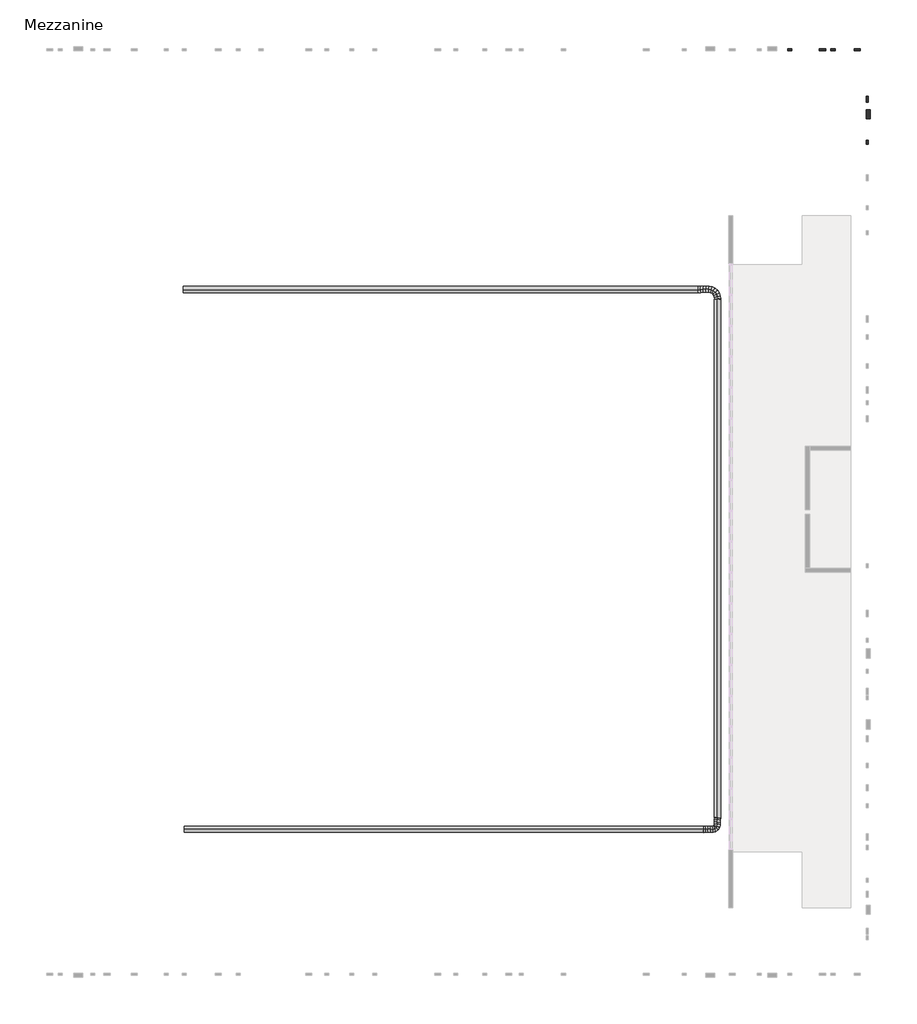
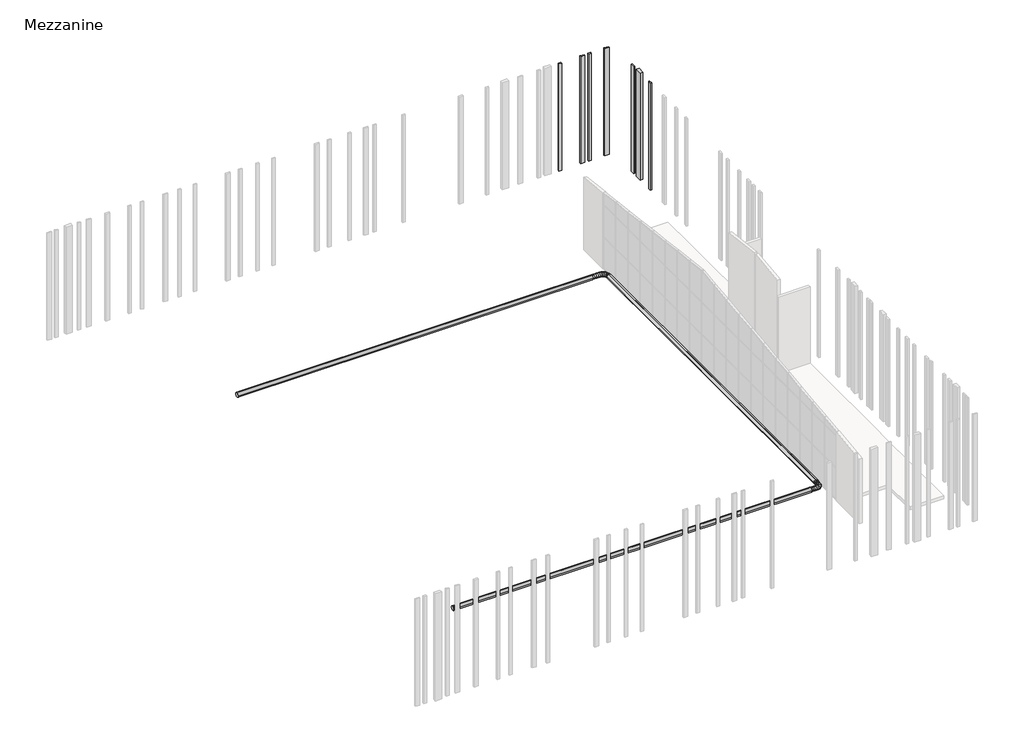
# One storey, part 7 of 7: 7 columns, 3 duct segments, 2 pipe segments.
"""IFC4 building model written with IfcOpenShell, lengths in millimetres."""

from ifc_helpers import new_model, si_unit, point, frame, frame_2d, origin, place, context, project, spatial, polyline, circle_curve, ellipse_curve, trimmed, segment, composite_curve, outline, extrude, transform, mapped, element, save
from ifc_brep_helpers import plane_surface, cylinder_surface, advanced_brep
from components import columns_rectangular_200x200_white_30d1f7a3, columns_rectangular_300x300_8a979122

model = new_model("IFC4")

# Units and contexts
model_context = context("Model", 3, world=origin())
ifc_project = project(units=[si_unit("LENGTHUNIT", "METRE", prefix="MILLI")], contexts=[model_context])

# Site, building, storey
site = spatial("IfcSite", under=ifc_project)
building = spatial("IfcBuilding", under=site)
storey = spatial("IfcBuildingStorey", under=building, Name="Mezzanine", Elevation=5800.0)

# Columns
placement = place(None, origin())
element("IfcColumn", 1, ObjectType="Columns_Rectangular : 200x200", at=placement, inside=storey, context=model_context, shape_type="SweptSolid", body=[
    extrude(outline(polyline([(-12200.7705062, 4231.5800404), (-12100.7705062, 4231.5800404), (-12100.7705062, 4031.5800404), (-12200.7705062, 4031.5800404), (-12200.7705062, 4231.5800404)])), frame((0.0, 0.0, 5800.0), z_axis=(0.0, 0.0, 1.0), x_axis=(1.0, 0.0, 0.0)), (0.0, 0.0, 1.0), 8000.0),
])
columns_rectangular_200x200_white_shape = columns_rectangular_200x200_white_30d1f7a3(model_context)
element("IfcColumn", 2, ObjectType="Columns_Rectangular : 200x200", at=placement, inside=storey, context=model_context, shape_type="MappedRepresentation", body=[
    mapped(columns_rectangular_200x200_white_shape, transform((-15916.5322209, 8646.9943842, 0.0), x_axis=(0.0, -1.0, 0.0), y_axis=(1.0, 0.0, 0.0), z_axis=(0.0, 0.0, 1.0))),
])
element("IfcColumn", 3, ObjectType="Columns_Rectangular : 200x200", at=placement, inside=storey, context=model_context, shape_type="MappedRepresentation", body=[
    mapped(columns_rectangular_200x200_white_shape, transform((-13816.5322209, 8646.9943842, 0.0), x_axis=(0.0, -1.0, 0.0), y_axis=(1.0, 0.0, 0.0), z_axis=(0.0, 0.0, 1.0))),
])
element("IfcColumn", 4, ObjectType="Columns_Rectangular : 300x300", at=placement, inside=storey, context=model_context, shape_type="SweptSolid", body=[
    extrude(outline(polyline([(-12200.7705062, 6372.2531539), (-12100.7705062, 6372.2531539), (-12100.7705062, 6072.2531539), (-12200.7705062, 6072.2531539), (-12200.7705062, 6372.2531539)])), frame((0.0, 0.0, 5800.0), z_axis=(0.0, 0.0, 1.0), x_axis=(1.0, 0.0, 0.0)), (0.0, 0.0, 1.0), 8000.0),
])
columns_rectangular_300x300_shape = columns_rectangular_300x300_8a979122(model_context)
element("IfcColumn", 5, ObjectType="Columns_Rectangular : 300x300", at=placement, inside=storey, context=model_context, shape_type="MappedRepresentation", body=[
    mapped(columns_rectangular_300x300_shape, transform((-14326.0599455, 8646.9943842, 0.0), x_axis=(0.0, -1.0, 0.0), y_axis=(1.0, 0.0, 0.0), z_axis=(0.0, 0.0, 1.0))),
])
element("IfcColumn", 6, ObjectType="Columns_Rectangular : 300x300", at=placement, inside=storey, context=model_context, shape_type="MappedRepresentation", body=[
    mapped(columns_rectangular_300x300_shape, transform((-12626.0599455, 8646.9943842, 0.0), x_axis=(0.0, -1.0, 0.0), y_axis=(1.0, 0.0, 0.0), z_axis=(0.0, 0.0, 1.0))),
])
element("IfcColumn", 7, ObjectType="Columns_Rectangular : 450x450mm", at=placement, inside=storey, context=model_context, shape_type="SweptSolid", body=[
    extrude(outline(polyline([(-12200.7705062, 5719.0800404), (-12000.7705062, 5719.0800404), (-12000.7705062, 5269.0800404), (-12200.7705062, 5269.0800404), (-12200.7705062, 5719.0800404)])), frame((0.0, 0.0, 5800.0), z_axis=(0.0, 0.0, 1.0), x_axis=(1.0, 0.0, 0.0)), (0.0, 0.0, 1.0), 8000.0),
])

# Duct segments
element("IfcDuctSegment", 8, ObjectType="Standard", at=placement, inside=storey, context=model_context, shape_type="SweptSolid", body=[
    extrude(outline(composite_curve([segment(polyline([(-29385.3806871, 6615.6), (-29382.8508471, 6615.6)]), True, "CONTINUOUS"), segment(trimmed(circle_curve(frame_2d((-29382.8508471, 6463.2)), 152.4), [point((-29382.8508471, 6615.6))], [point((-29230.4508471, 6463.2))], False, "CARTESIAN"), True, "CONTINUOUS"), segment(trimmed(circle_curve(frame_2d((-29382.8508471, 6463.2)), 152.4), [point((-29230.4508471, 6463.2))], [point((-29382.8508471, 6310.8))], False, "CARTESIAN"), True, "CONTINUOUS"), segment(polyline([(-29382.8508471, 6310.8), (-29385.3806871, 6310.8)]), True, "CONTINUOUS"), segment(trimmed(circle_curve(frame_2d((-29385.3806871, 6463.2)), 152.4), [point((-29385.3806871, 6310.8))], [point((-29537.7806871, 6463.2))], False, "CARTESIAN"), True, "CONTINUOUS"), segment(trimmed(circle_curve(frame_2d((-29385.3806871, 6463.2)), 152.4), [point((-29537.7806871, 6463.2))], [point((-29385.3806871, 6615.6))], False, "CARTESIAN"), True, "CONTINUOUS")], self_intersect=False)), frame((-45450.9339353, 0.0, 0.0), z_axis=(1.0, 0.0, 0.0), x_axis=(0.0, 1.0, 0.0)), (0.0, 0.0, 1.0), 25300.0),
])
element("IfcDuctSegment", 9, ObjectType="Standard", at=placement, inside=storey, context=model_context, shape_type="SweptSolid", body=[
    extrude(outline(composite_curve([segment(polyline([(-3057.1848796, 6615.6), (-3054.6550396, 6615.6)]), True, "CONTINUOUS"), segment(trimmed(circle_curve(frame_2d((-3054.6550396, 6463.2)), 152.4), [point((-3054.6550396, 6615.6))], [point((-2902.2550396, 6463.2))], False, "CARTESIAN"), True, "CONTINUOUS"), segment(trimmed(circle_curve(frame_2d((-3054.6550396, 6463.2)), 152.4), [point((-2902.2550396, 6463.2))], [point((-3054.6550396, 6310.8))], False, "CARTESIAN"), True, "CONTINUOUS"), segment(polyline([(-3054.6550396, 6310.8), (-3057.1848796, 6310.8)]), True, "CONTINUOUS"), segment(trimmed(circle_curve(frame_2d((-3057.1848796, 6463.2)), 152.4), [point((-3057.1848796, 6310.8))], [point((-3209.5848796, 6463.2))], False, "CARTESIAN"), True, "CONTINUOUS"), segment(trimmed(circle_curve(frame_2d((-3057.1848796, 6463.2)), 152.4), [point((-3209.5848796, 6463.2))], [point((-3057.1848796, 6615.6))], False, "CARTESIAN"), True, "CONTINUOUS")], self_intersect=False)), frame((-45505.3056755, 0.0, 0.0), z_axis=(1.0, 0.0, 0.0), x_axis=(0.0, 1.0, 0.0)), (0.0, 0.0, 1.0), 25100.0),
])
element("IfcDuctSegment", 10, ObjectType="Standard", at=placement, inside=storey, context=model_context, shape_type="SweptSolid", body=[
    extrude(outline(composite_curve([segment(polyline([(6615.6, -19449.6690153), (6615.6, -19452.1988553)]), True, "CONTINUOUS"), segment(trimmed(circle_curve(frame_2d((6463.2, -19452.1988553)), 152.4), [point((6615.6, -19452.1988553))], [point((6463.2, -19604.5988553))], False, "CARTESIAN"), True, "CONTINUOUS"), segment(trimmed(circle_curve(frame_2d((6463.2, -19452.1988553)), 152.4), [point((6463.2, -19604.5988553))], [point((6310.8, -19452.1988553))], False, "CARTESIAN"), True, "CONTINUOUS"), segment(polyline([(6310.8, -19452.1988553), (6310.8, -19449.6690153)]), True, "CONTINUOUS"), segment(trimmed(circle_curve(frame_2d((6463.2, -19449.6690153)), 152.4), [point((6310.8, -19449.6690153))], [point((6463.2, -19297.2690153))], False, "CARTESIAN"), True, "CONTINUOUS"), segment(trimmed(circle_curve(frame_2d((6463.2, -19449.6690153)), 152.4), [point((6463.2, -19297.2690153))], [point((6615.6, -19449.6690153))], False, "CARTESIAN"), True, "CONTINUOUS")], self_intersect=False)), frame((0.0, -28825.961363, 0.0), z_axis=(0.0, 1.0, 0.0), x_axis=(0.0, 0.0, 1.0)), (0.0, 0.0, 1.0), 25300.0),
])

# Pipe segments
element("IfcPipeSegment", 11, ObjectType="Flex-Round", at=placement, inside=storey, context=model_context, shape_type="AdvancedBrep", body=[
    advanced_brep(
    [(-19590.1544266, -3532.8076986, 6463.2), (-19440.1701771, -3534.9813834, 6313.2), (-19290.1859276, -3537.1550682, 6463.2), (-19440.1701771, -3534.9813834, 6613.2), (-19590.0038056, -3522.414851, 6463.2), (-19439.8773357, -3514.7753238, 6313.2), (-19289.7508657, -3507.1357966, 6463.2), (-19439.8773357, -3514.7753238, 6613.2), (-20411.2302991, -3206.9378608, 6463.2), (-20411.2302991, -3056.9378608, 6613.2), (-20411.2302991, -2906.9378608, 6463.2), (-20411.2302991, -3056.9378608, 6313.2), (-19599.5471993, -3440.6405869, 6463.2), (-19452.2538379, -3408.7250662, 6313.2), (-19304.9604765, -3376.8095454, 6463.2), (-19452.2538379, -3408.7250662, 6613.2), (-19628.3097854, -3351.0296077, 6463.2), (-19491.4037818, -3286.7518611, 6313.2), (-19354.4977782, -3222.4741145, 6463.2), (-19491.4037818, -3286.7518611, 6613.2), (-19669.6545122, -3286.1444102, 6463.2), (-19556.6085193, -3184.4214649, 6313.2), (-19443.5625264, -3082.6985197, 6463.2), (-19556.6085193, -3184.4214649, 6613.2), (-19722.0591948, -3244.3984039, 6463.2), (-19646.0797232, -3113.1479594, 6313.2), (-19570.1002515, -2981.8975149, 6463.2), (-19646.0797232, -3113.1479594, 6613.2), (-19795.993686, -3215.1390136, 6463.2), (-19755.1977137, -3069.964787, 6313.2), (-19714.4017414, -2924.7905605, 6463.2), (-19755.1977137, -3069.964787, 6613.2), (-19894.7672096, -3198.0758377, 6463.2), (-19878.6979432, -3048.6300603, 6313.2), (-19862.6286768, -2899.1842829, 6463.2), (-19878.6979432, -3048.6300603, 6613.2), (-20012.5560406, -3192.9881824, 6463.2), (-20011.3158641, -3042.9018918, 6313.2), (-20010.0756877, -2892.8156012, 6463.2), (-20011.3158641, -3042.9018918, 6613.2), (-20142.0395439, -3196.4384893, 6463.2), (-20147.7869289, -3046.5383941, 6313.2), (-20153.5343139, -2896.6382988, 6463.2), (-20147.7869289, -3046.5383941, 6613.2), (-20276.898715, -3203.1877409, 6463.2), (-20282.8465897, -3053.2976796, 6313.2), (-20288.7944645, -2903.4076182, 6463.2), (-20282.8465897, -3053.2976796, 6613.2), (-20404.7800171, -3206.9378608, 6463.2), (-20406.9789199, -3056.9378608, 6313.2), (-20409.1778227, -2906.9378608, 6463.2), (-20406.9789199, -3056.9378608, 6613.2)],
    [
        (0, 1, circle_curve(frame((-19440.1701771, -3534.9813834, 6463.2), z_axis=(-0.01449123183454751, -0.9998949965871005, 0.0), x_axis=(-0.9998949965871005, 0.01449123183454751, 0.0)), 150.0)),
        (1, 2, circle_curve(frame((-19440.1701771, -3534.9813834, 6463.2), z_axis=(-0.01449123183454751, -0.9998949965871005, 0.0), x_axis=(-0.9998949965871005, 0.01449123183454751, 0.0)), 150.0)),
        (2, 3, circle_curve(frame((-19440.1701771, -3534.9813834, 6463.2), z_axis=(-0.01449123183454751, -0.9998949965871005, 0.0), x_axis=(-0.9998949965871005, 0.01449123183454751, 0.0)), 150.0)),
        (3, 0, circle_curve(frame((-19440.1701771, -3534.9813834, 6463.2), z_axis=(-0.01449123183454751, -0.9998949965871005, 0.0), x_axis=(-0.9998949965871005, 0.01449123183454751, 0.0)), 150.0)),
        (0, 4),
        (4, 5, ellipse_curve(frame((-19439.8773357, -3514.7753238, 6463.2), z_axis=(0.05082151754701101, -0.9987077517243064, 0.0), x_axis=(-0.9987077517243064, -0.050821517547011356, 0.0)), 150.3207216, 150.0)),
        (5, 1),
        (5, 6, ellipse_curve(frame((-19439.8773357, -3514.7753238, 6463.2), z_axis=(0.05082151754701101, -0.9987077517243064, 0.0), x_axis=(-0.9987077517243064, -0.050821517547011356, 0.0)), 150.3207216, 150.0)),
        (6, 2),
        (6, 7, ellipse_curve(frame((-19439.8773357, -3514.7753238, 6463.2), z_axis=(0.05082151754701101, -0.9987077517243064, 0.0), x_axis=(-0.9987077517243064, -0.050821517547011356, 0.0)), 150.3207216, 150.0)),
        (7, 3),
        (7, 4, ellipse_curve(frame((-19439.8773357, -3514.7753238, 6463.2), z_axis=(0.05082151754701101, -0.9987077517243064, 0.0), x_axis=(-0.9987077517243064, -0.050821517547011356, 0.0)), 150.3207216, 150.0)),
        (8, 9, circle_curve(frame((-20411.2302991, -3056.9378608, 6463.2), z_axis=(-1.0, 0.0, 0.0), x_axis=(0.0, -1.0, 0.0)), 150.0)),
        (9, 10, circle_curve(frame((-20411.2302991, -3056.9378608, 6463.2), z_axis=(-1.0, 0.0, 0.0), x_axis=(0.0, -1.0, 0.0)), 150.0)),
        (10, 11, circle_curve(frame((-20411.2302991, -3056.9378608, 6463.2), z_axis=(-1.0, 0.0, 0.0), x_axis=(0.0, -1.0, 0.0)), 150.0)),
        (11, 8, circle_curve(frame((-20411.2302991, -3056.9378608, 6463.2), z_axis=(-1.0, 0.0, 0.0), x_axis=(0.0, -1.0, 0.0)), 150.0)),
        (4, 12),
        (12, 13, ellipse_curve(frame((-19452.2538379, -3408.7250662, 6463.2), z_axis=(0.211765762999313, -0.9773204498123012, 0.0), x_axis=(-0.9773204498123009, -0.21176576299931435, 0.0)), 150.7114288, 150.0)),
        (13, 5),
        (13, 14, ellipse_curve(frame((-19452.2538379, -3408.7250662, 6463.2), z_axis=(0.211765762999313, -0.9773204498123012, 0.0), x_axis=(-0.9773204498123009, -0.21176576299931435, 0.0)), 150.7114288, 150.0)),
        (14, 6),
        (14, 15, ellipse_curve(frame((-19452.2538379, -3408.7250662, 6463.2), z_axis=(0.211765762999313, -0.9773204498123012, 0.0), x_axis=(-0.9773204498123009, -0.21176576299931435, 0.0)), 150.7114288, 150.0)),
        (15, 7),
        (15, 12, ellipse_curve(frame((-19452.2538379, -3408.7250662, 6463.2), z_axis=(0.211765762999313, -0.9773204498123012, 0.0), x_axis=(-0.9773204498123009, -0.21176576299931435, 0.0)), 150.7114288, 150.0)),
        (12, 16),
        (16, 17, ellipse_curve(frame((-19491.4037818, -3286.7518611, 6463.2), z_axis=(0.42499244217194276, -0.9051968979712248, 0.0), x_axis=(-0.9051968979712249, -0.4249924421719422, 0.0)), 151.2444463, 150.0)),
        (17, 13),
        (17, 18, ellipse_curve(frame((-19491.4037818, -3286.7518611, 6463.2), z_axis=(0.42499244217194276, -0.9051968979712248, 0.0), x_axis=(-0.9051968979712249, -0.4249924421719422, 0.0)), 151.2444463, 150.0)),
        (18, 14),
        (18, 19, ellipse_curve(frame((-19491.4037818, -3286.7518611, 6463.2), z_axis=(0.42499244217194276, -0.9051968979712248, 0.0), x_axis=(-0.9051968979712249, -0.4249924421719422, 0.0)), 151.2444463, 150.0)),
        (19, 15),
        (19, 16, ellipse_curve(frame((-19491.4037818, -3286.7518611, 6463.2), z_axis=(0.42499244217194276, -0.9051968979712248, 0.0), x_axis=(-0.9051968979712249, -0.4249924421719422, 0.0)), 151.2444463, 150.0)),
        (16, 20),
        (20, 21, ellipse_curve(frame((-19556.6085193, -3184.4214649, 6463.2), z_axis=(0.6688977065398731, -0.7433544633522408, 0.0), x_axis=(-0.7433544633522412, -0.6688977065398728, 0.0)), 152.0754881, 150.0)),
        (21, 17),
        (21, 22, ellipse_curve(frame((-19556.6085193, -3184.4214649, 6463.2), z_axis=(0.6688977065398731, -0.7433544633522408, 0.0), x_axis=(-0.7433544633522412, -0.6688977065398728, 0.0)), 152.0754881, 150.0)),
        (22, 18),
        (22, 23, ellipse_curve(frame((-19556.6085193, -3184.4214649, 6463.2), z_axis=(0.6688977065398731, -0.7433544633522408, 0.0), x_axis=(-0.7433544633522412, -0.6688977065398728, 0.0)), 152.0754881, 150.0)),
        (23, 19),
        (23, 20, ellipse_curve(frame((-19556.6085193, -3184.4214649, 6463.2), z_axis=(0.6688977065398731, -0.7433544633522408, 0.0), x_axis=(-0.7433544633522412, -0.6688977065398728, 0.0)), 152.0754881, 150.0)),
        (20, 24),
        (24, 25, ellipse_curve(frame((-19646.0797232, -3113.1479594, 6463.2), z_axis=(0.8654480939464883, -0.5009985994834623, 0.0), x_axis=(-0.5009985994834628, -0.8654480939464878, 0.0)), 151.6560559, 150.0)),
        (25, 21),
        (25, 26, ellipse_curve(frame((-19646.0797232, -3113.1479594, 6463.2), z_axis=(0.8654480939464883, -0.5009985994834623, 0.0), x_axis=(-0.5009985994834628, -0.8654480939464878, 0.0)), 151.6560559, 150.0)),
        (26, 22),
        (26, 27, ellipse_curve(frame((-19646.0797232, -3113.1479594, 6463.2), z_axis=(0.8654480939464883, -0.5009985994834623, 0.0), x_axis=(-0.5009985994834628, -0.8654480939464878, 0.0)), 151.6560559, 150.0)),
        (27, 23),
        (27, 24, ellipse_curve(frame((-19646.0797232, -3113.1479594, 6463.2), z_axis=(0.8654480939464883, -0.5009985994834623, 0.0), x_axis=(-0.5009985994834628, -0.8654480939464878, 0.0)), 151.6560559, 150.0)),
        (24, 28),
        (28, 29, ellipse_curve(frame((-19755.1977137, -3069.964787, 6463.2), z_axis=(0.962710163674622, -0.2705349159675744, 0.0), x_axis=(-0.2705349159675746, -0.9627101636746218, 0.0)), 150.7974384, 150.0)),
        (29, 25),
        (29, 30, ellipse_curve(frame((-19755.1977137, -3069.964787, 6463.2), z_axis=(0.962710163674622, -0.2705349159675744, 0.0), x_axis=(-0.2705349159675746, -0.9627101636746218, 0.0)), 150.7974384, 150.0)),
        (30, 26),
        (30, 31, ellipse_curve(frame((-19755.1977137, -3069.964787, 6463.2), z_axis=(0.962710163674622, -0.2705349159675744, 0.0), x_axis=(-0.2705349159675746, -0.9627101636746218, 0.0)), 150.7974384, 150.0)),
        (31, 27),
        (31, 28, ellipse_curve(frame((-19755.1977137, -3069.964787, 6463.2), z_axis=(0.962710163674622, -0.2705349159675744, 0.0), x_axis=(-0.2705349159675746, -0.9627101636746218, 0.0)), 150.7974384, 150.0)),
        (28, 32),
        (32, 33, ellipse_curve(frame((-19878.6979432, -3048.6300603, 6463.2), z_axis=(0.99426875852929, -0.10690947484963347, 0.0), x_axis=(-0.10690947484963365, -0.9942687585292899, 0.0)), 150.3072244, 150.0)),
        (33, 29),
        (33, 34, ellipse_curve(frame((-19878.6979432, -3048.6300603, 6463.2), z_axis=(0.99426875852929, -0.10690947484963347, 0.0), x_axis=(-0.10690947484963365, -0.9942687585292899, 0.0)), 150.3072244, 150.0)),
        (34, 30),
        (34, 35, ellipse_curve(frame((-19878.6979432, -3048.6300603, 6463.2), z_axis=(0.99426875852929, -0.10690947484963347, 0.0), x_axis=(-0.10690947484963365, -0.9942687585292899, 0.0)), 150.3072244, 150.0)),
        (35, 31),
        (35, 32, ellipse_curve(frame((-19878.6979432, -3048.6300603, 6463.2), z_axis=(0.99426875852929, -0.10690947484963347, 0.0), x_axis=(-0.10690947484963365, -0.9942687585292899, 0.0)), 150.3072244, 150.0)),
        (32, 36),
        (36, 37, ellipse_curve(frame((-20011.3158641, -3042.9018918, 6463.2), z_axis=(0.9999658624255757, -0.008262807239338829, 0.0), x_axis=(-0.008262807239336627, -0.9999658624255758, 0.0)), 150.0914144, 150.0)),
        (37, 33),
        (37, 38, ellipse_curve(frame((-20011.3158641, -3042.9018918, 6463.2), z_axis=(0.9999658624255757, -0.008262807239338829, 0.0), x_axis=(-0.008262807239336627, -0.9999658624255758, 0.0)), 150.0914144, 150.0)),
        (38, 34),
        (38, 39, ellipse_curve(frame((-20011.3158641, -3042.9018918, 6463.2), z_axis=(0.9999658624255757, -0.008262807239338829, 0.0), x_axis=(-0.008262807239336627, -0.9999658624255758, 0.0)), 150.0914144, 150.0)),
        (39, 35),
        (39, 36, ellipse_curve(frame((-20011.3158641, -3042.9018918, 6463.2), z_axis=(0.9999658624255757, -0.008262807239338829, 0.0), x_axis=(-0.008262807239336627, -0.9999658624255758, 0.0)), 150.0914144, 150.0)),
        (36, 40),
        (40, 41, ellipse_curve(frame((-20147.7869289, -3046.5383941, 6463.2), z_axis=(0.9992657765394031, 0.0383132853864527, 0.0), x_axis=(0.03831328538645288, -0.999265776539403, 0.0)), 150.0102363, 150.0)),
        (41, 37),
        (41, 42, ellipse_curve(frame((-20147.7869289, -3046.5383941, 6463.2), z_axis=(0.9992657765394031, 0.0383132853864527, 0.0), x_axis=(0.03831328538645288, -0.999265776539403, 0.0)), 150.0102363, 150.0)),
        (42, 38),
        (42, 43, ellipse_curve(frame((-20147.7869289, -3046.5383941, 6463.2), z_axis=(0.9992657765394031, 0.0383132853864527, 0.0), x_axis=(0.03831328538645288, -0.999265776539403, 0.0)), 150.0102363, 150.0)),
        (43, 39),
        (43, 40, ellipse_curve(frame((-20147.7869289, -3046.5383941, 6463.2), z_axis=(0.9992657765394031, 0.0383132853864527, 0.0), x_axis=(0.03831328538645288, -0.999265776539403, 0.0)), 150.0102363, 150.0)),
        (40, 44),
        (44, 45, ellipse_curve(frame((-20282.8465897, -3053.2976796, 6463.2), z_axis=(0.9992136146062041, 0.0396503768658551, 0.0), x_axis=(-0.039650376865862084, 0.9992136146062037, 0.0)), 150.0080255, 150.0)),
        (45, 41),
        (45, 46, ellipse_curve(frame((-20282.8465897, -3053.2976796, 6463.2), z_axis=(0.9992136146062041, 0.0396503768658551, 0.0), x_axis=(-0.039650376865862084, 0.9992136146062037, 0.0)), 150.0080255, 150.0)),
        (46, 42),
        (46, 47, ellipse_curve(frame((-20282.8465897, -3053.2976796, 6463.2), z_axis=(0.9992136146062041, 0.0396503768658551, 0.0), x_axis=(-0.039650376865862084, 0.9992136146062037, 0.0)), 150.0080255, 150.0)),
        (47, 43),
        (47, 44, ellipse_curve(frame((-20282.8465897, -3053.2976796, 6463.2), z_axis=(0.9992136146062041, 0.0396503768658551, 0.0), x_axis=(-0.039650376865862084, 0.9992136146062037, 0.0)), 150.0080255, 150.0)),
        (44, 48),
        (48, 49, ellipse_curve(frame((-20406.9789199, -3056.9378608, 6463.2), z_axis=(0.999892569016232, 0.014657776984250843, 0.0), x_axis=(-0.014657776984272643, 0.9998925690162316, 0.0)), 150.0161164, 150.0)),
        (49, 45),
        (49, 50, ellipse_curve(frame((-20406.9789199, -3056.9378608, 6463.2), z_axis=(0.999892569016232, 0.014657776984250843, 0.0), x_axis=(-0.014657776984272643, 0.9998925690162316, 0.0)), 150.0161164, 150.0)),
        (50, 46),
        (50, 51, ellipse_curve(frame((-20406.9789199, -3056.9378608, 6463.2), z_axis=(0.999892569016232, 0.014657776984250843, 0.0), x_axis=(-0.014657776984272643, 0.9998925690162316, 0.0)), 150.0161164, 150.0)),
        (51, 47),
        (51, 48, ellipse_curve(frame((-20406.9789199, -3056.9378608, 6463.2), z_axis=(0.999892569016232, 0.014657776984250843, 0.0), x_axis=(-0.014657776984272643, 0.9998925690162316, 0.0)), 150.0161164, 150.0)),
        (48, 8),
        (11, 49),
        (10, 50),
        (9, 51),
    ],
    [
        plane_surface(frame((-19440.1701771, -3534.9813834, 6613.2), z_axis=(-0.014491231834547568, -0.9998949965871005, 0.0), x_axis=(0.9998949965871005, -0.014491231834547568, 0.0))),
        cylinder_surface(frame((-19440.1701771, -3534.9813834, 6463.2), z_axis=(-0.01449123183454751, -0.9998949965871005, 0.0), x_axis=(-0.9998949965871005, 0.01449123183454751, 0.0)), 150.0),
        plane_surface(frame((-20411.2302991, -3056.9378608, 6313.2), z_axis=(-1.0, 0.0, 0.0), x_axis=(0.0, -1.0, 0.0))),
        cylinder_surface(frame((-19439.8773357, -3514.7753238, 6463.2), z_axis=(0.11591740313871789, -0.9932588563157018, 0.0), x_axis=(-0.9932588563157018, -0.11591740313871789, 0.0)), 150.0),
        cylinder_surface(frame((-19452.2538379, -3408.7250662, 6463.2), z_axis=(0.305614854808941, -0.9521552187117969, 0.0), x_axis=(-0.9521552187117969, -0.305614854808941, 0.0)), 150.0),
        cylinder_surface(frame((-19491.4037818, -3286.7518611, 6463.2), z_axis=(0.5373763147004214, -0.8433425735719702, 0.0), x_axis=(-0.8433425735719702, -0.5373763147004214, 0.0)), 150.0),
        cylinder_surface(frame((-19556.6085193, -3184.4214649, 6463.2), z_axis=(0.7821612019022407, -0.6230761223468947, 0.0), x_axis=(-0.6230761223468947, -0.7821612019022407, 0.0)), 150.0),
        cylinder_surface(frame((-19646.0797232, -3113.1479594, 6463.2), z_axis=(0.9298339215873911, -0.36797945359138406, 0.0), x_axis=(-0.36797945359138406, -0.9298339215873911, 0.0)), 150.0),
        cylinder_surface(frame((-19755.1977137, -3069.964787, 6463.2), z_axis=(0.9854045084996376, -0.17022912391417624, 0.0), x_axis=(-0.17022912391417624, -0.9854045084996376, 0.0)), 150.0),
        cylinder_surface(frame((-19878.6979432, -3048.6300603, 6463.2), z_axis=(0.9990684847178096, -0.04315278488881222, 0.0), x_axis=(-0.04315278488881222, -0.9990684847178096, 0.0)), 150.0),
        cylinder_surface(frame((-20011.3158641, -3042.9018918, 6463.2), z_axis=(0.9996451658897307, 0.02663723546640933, 0.0), x_axis=(0.02663723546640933, -0.9996451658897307, 0.0)), 150.0),
        cylinder_surface(frame((-20147.7869289, -3046.5383941, 6463.2), z_axis=(0.998750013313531, 0.049984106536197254, 0.0), x_axis=(0.049984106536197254, -0.998750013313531, 0.0)), 150.0),
        cylinder_surface(frame((-20282.8465897, -3053.2976796, 6463.2), z_axis=(0.9995702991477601, 0.02931240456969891, 0.0), x_axis=(0.02931240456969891, -0.9995702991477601, 0.0)), 150.0),
        cylinder_surface(frame((-20406.9789199, -3056.9378608, 6463.2), z_axis=(1.0, 0.0, 0.0), x_axis=(0.0, -1.0, 0.0)), 150.0),
    ],
    [
        (0, [[1, 2, 3, 4]]),
        (1, [[-1, 5, 6, 7]]),
        (1, [[-2, -7, 8, 9]]),
        (1, [[-3, -9, 10, 11]]),
        (1, [[-4, -11, 12, -5]]),
        (2, [[13, 14, 15, 16]]),
        (3, [[-6, 17, 18, 19]]),
        (3, [[-8, -19, 20, 21]]),
        (3, [[-10, -21, 22, 23]]),
        (3, [[-12, -23, 24, -17]]),
        (4, [[-18, 25, 26, 27]]),
        (4, [[-20, -27, 28, 29]]),
        (4, [[-22, -29, 30, 31]]),
        (4, [[-24, -31, 32, -25]]),
        (5, [[-26, 33, 34, 35]]),
        (5, [[-28, -35, 36, 37]]),
        (5, [[-30, -37, 38, 39]]),
        (5, [[-32, -39, 40, -33]]),
        (6, [[-34, 41, 42, 43]]),
        (6, [[-36, -43, 44, 45]]),
        (6, [[-38, -45, 46, 47]]),
        (6, [[-40, -47, 48, -41]]),
        (7, [[-42, 49, 50, 51]]),
        (7, [[-44, -51, 52, 53]]),
        (7, [[-46, -53, 54, 55]]),
        (7, [[-48, -55, 56, -49]]),
        (8, [[-50, 57, 58, 59]]),
        (8, [[-52, -59, 60, 61]]),
        (8, [[-54, -61, 62, 63]]),
        (8, [[-56, -63, 64, -57]]),
        (9, [[-58, 65, 66, 67]]),
        (9, [[-60, -67, 68, 69]]),
        (9, [[-62, -69, 70, 71]]),
        (9, [[-64, -71, 72, -65]]),
        (10, [[-66, 73, 74, 75]]),
        (10, [[-68, -75, 76, 77]]),
        (10, [[-70, -77, 78, 79]]),
        (10, [[-72, -79, 80, -73]]),
        (11, [[-74, 81, 82, 83]]),
        (11, [[-76, -83, 84, 85]]),
        (11, [[-78, -85, 86, 87]]),
        (11, [[-80, -87, 88, -81]]),
        (12, [[-82, 89, 90, 91]]),
        (12, [[-84, -91, 92, 93]]),
        (12, [[-86, -93, 94, 95]]),
        (12, [[-88, -95, 96, -89]]),
        (13, [[-90, 97, -16, 98]]),
        (13, [[-92, -98, -15, 99]]),
        (13, [[-94, -99, -14, 100]]),
        (13, [[-96, -100, -13, -97]]),
    ],
),
])
element("IfcPipeSegment", 12, ObjectType="Flex-Round", at=placement, inside=storey, context=model_context, shape_type="AdvancedBrep", body=[
    advanced_brep(
    [(-20165.5727646, -29242.1223841, 6463.2), (-20148.3791484, -29391.1337245, 6313.2), (-20131.1855322, -29540.1450649, 6463.2), (-20148.3791484, -29391.1337245, 6613.2), (-20152.3362088, -29240.5950892, 6463.2), (-20139.8006574, -29390.1438986, 6313.2), (-20127.265106, -29539.692708, 6463.2), (-20139.8006574, -29390.1438986, 6613.2), (-19582.6476221, -28765.8486196, 6463.2), (-19438.6476221, -28807.8486196, 6613.2), (-19294.6476221, -28849.8486196, 6463.2), (-19438.6476221, -28807.8486196, 6313.2), (-20042.3120444, -29234.8270388, 6463.2), (-20038.4422515, -29384.8301532, 6313.2), (-20034.5724585, -29534.8332676, 6463.2), (-20038.4422515, -29384.8301532, 6613.2), (-19919.9276807, -29234.9240443, 6463.2), (-19919.6282, -29384.9243288, 6313.2), (-19919.3287193, -29534.9246133, 6463.2), (-19919.6282, -29384.9243288, 6613.2), (-19806.0627615, -29234.3791176, 6463.2), (-19800.1495237, -29384.3525361, 6313.2), (-19794.236286, -29534.3259547, 6463.2), (-19800.1495237, -29384.3525361, 6613.2), (-19711.4302913, -29227.3605902, 6463.2), (-19688.2187525, -29376.0510601, 6313.2), (-19665.0072136, -29524.7415301, 6463.2), (-19688.2187525, -29376.0510601, 6613.2), (-19650.7025518, -29212.7770962, 6463.2), (-19592.0484159, -29352.9561856, 6313.2), (-19533.39428, -29493.135275, 6463.2), (-19592.0484159, -29352.9561856, 6613.2), (-19631.6482951, -29200.9134134, 6463.2), (-19519.8510438, -29308.0041974, 6313.2), (-19408.0537925, -29415.0949814, 6463.2), (-19519.8510438, -29308.0041974, 6613.2), (-19622.5123603, -29184.7287799, 6463.2), (-19478.6835091, -29235.074445, 6313.2), (-19334.8546579, -29285.42011, 6463.2), (-19478.6835091, -29235.074445, 6613.2), (-19612.7713678, -29124.1850711, 6463.2), (-19463.1044888, -29138.2453314, 6313.2), (-19313.4376098, -29152.3055917, 6463.2), (-19463.1044888, -29138.2453314, 6613.2), (-19609.963804, -29023.2660697, 6463.2), (-19460.0327307, -29027.8297634, 6313.2), (-19310.1016575, -29032.3934572, 6463.2), (-19460.0327307, -29027.8297634, 6613.2), (-19605.9288738, -28901.2087571, 6463.2), (-19456.2773901, -28914.2300799, 6313.2), (-19306.6259063, -28927.2514026, 6463.2), (-19456.2773901, -28914.2300799, 6613.2), (-19590.6708856, -28793.3569515, 6463.2), (-19443.6573761, -28825.0249188, 6313.2), (-19296.6438665, -28856.6928861, 6463.2), (-19443.6573761, -28825.0249188, 6613.2)],
    [
        (0, 1, circle_curve(frame((-20148.3791484, -29391.1337245, 6463.2), z_axis=(-0.993408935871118, -0.11462410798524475, 0.0), x_axis=(-0.11462410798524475, 0.993408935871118, 0.0)), 150.0)),
        (1, 2, circle_curve(frame((-20148.3791484, -29391.1337245, 6463.2), z_axis=(-0.993408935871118, -0.11462410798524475, 0.0), x_axis=(-0.11462410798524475, 0.993408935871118, 0.0)), 150.0)),
        (2, 3, circle_curve(frame((-20148.3791484, -29391.1337245, 6463.2), z_axis=(-0.993408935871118, -0.11462410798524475, 0.0), x_axis=(-0.11462410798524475, 0.993408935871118, 0.0)), 150.0)),
        (3, 0, circle_curve(frame((-20148.3791484, -29391.1337245, 6463.2), z_axis=(-0.993408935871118, -0.11462410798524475, 0.0), x_axis=(-0.11462410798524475, 0.993408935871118, 0.0)), 150.0)),
        (0, 4),
        (4, 5, ellipse_curve(frame((-20139.8006574, -29390.1438986, 6463.2), z_axis=(-0.9965053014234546, -0.08352954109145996, 0.0), x_axis=(0.08352954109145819, -0.9965053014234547, 0.0)), 150.0732702, 150.0)),
        (5, 1),
        (5, 6, ellipse_curve(frame((-20139.8006574, -29390.1438986, 6463.2), z_axis=(-0.9965053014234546, -0.08352954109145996, 0.0), x_axis=(0.08352954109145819, -0.9965053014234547, 0.0)), 150.0732702, 150.0)),
        (6, 2),
        (6, 7, ellipse_curve(frame((-20139.8006574, -29390.1438986, 6463.2), z_axis=(-0.9965053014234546, -0.08352954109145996, 0.0), x_axis=(0.08352954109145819, -0.9965053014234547, 0.0)), 150.0732702, 150.0)),
        (7, 3),
        (7, 4, ellipse_curve(frame((-20139.8006574, -29390.1438986, 6463.2), z_axis=(-0.9965053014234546, -0.08352954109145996, 0.0), x_axis=(0.08352954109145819, -0.9965053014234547, 0.0)), 150.0732702, 150.0)),
        (8, 9, circle_curve(frame((-19438.6476221, -28807.8486196, 6463.2), z_axis=(0.27999999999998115, 0.9600000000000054, 0.0), x_axis=(-0.9600000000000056, 0.2799999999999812, 0.0)), 150.0)),
        (9, 10, circle_curve(frame((-19438.6476221, -28807.8486196, 6463.2), z_axis=(0.27999999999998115, 0.9600000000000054, 0.0), x_axis=(-0.9600000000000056, 0.2799999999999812, 0.0)), 150.0)),
        (10, 11, circle_curve(frame((-19438.6476221, -28807.8486196, 6463.2), z_axis=(0.27999999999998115, 0.9600000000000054, 0.0), x_axis=(-0.9600000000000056, 0.2799999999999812, 0.0)), 150.0)),
        (11, 8, circle_curve(frame((-19438.6476221, -28807.8486196, 6463.2), z_axis=(0.27999999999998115, 0.9600000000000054, 0.0), x_axis=(-0.9600000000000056, 0.2799999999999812, 0.0)), 150.0)),
        (4, 12),
        (12, 13, ellipse_curve(frame((-20038.4422515, -29384.8301532, 6463.2), z_axis=(-0.9996673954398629, -0.02578950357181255, 0.0), x_axis=(0.025789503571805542, -0.9996673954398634, 0.0)), 150.0530228, 150.0)),
        (13, 5),
        (13, 14, ellipse_curve(frame((-20038.4422515, -29384.8301532, 6463.2), z_axis=(-0.9996673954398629, -0.02578950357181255, 0.0), x_axis=(0.025789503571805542, -0.9996673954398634, 0.0)), 150.0530228, 150.0)),
        (14, 6),
        (14, 15, ellipse_curve(frame((-20038.4422515, -29384.8301532, 6463.2), z_axis=(-0.9996673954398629, -0.02578950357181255, 0.0), x_axis=(0.025789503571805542, -0.9996673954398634, 0.0)), 150.0530228, 150.0)),
        (15, 7),
        (15, 12, ellipse_curve(frame((-20038.4422515, -29384.8301532, 6463.2), z_axis=(-0.9996673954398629, -0.02578950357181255, 0.0), x_axis=(0.025789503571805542, -0.9996673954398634, 0.0)), 150.0530228, 150.0)),
        (12, 16),
        (16, 17, ellipse_curve(frame((-19919.6282, -29384.9243288, 6463.2), z_axis=(-0.9999980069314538, -0.0019965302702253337, 0.0), x_axis=(-0.0019965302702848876, 0.9999980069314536, 0.0)), 150.0005835, 150.0)),
        (17, 13),
        (17, 18, ellipse_curve(frame((-19919.6282, -29384.9243288, 6463.2), z_axis=(-0.9999980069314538, -0.0019965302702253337, 0.0), x_axis=(-0.0019965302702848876, 0.9999980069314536, 0.0)), 150.0005835, 150.0)),
        (18, 14),
        (18, 19, ellipse_curve(frame((-19919.6282, -29384.9243288, 6463.2), z_axis=(-0.9999980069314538, -0.0019965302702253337, 0.0), x_axis=(-0.0019965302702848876, 0.9999980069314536, 0.0)), 150.0005835, 150.0)),
        (19, 15),
        (19, 16, ellipse_curve(frame((-19919.6282, -29384.9243288, 6463.2), z_axis=(-0.9999980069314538, -0.0019965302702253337, 0.0), x_axis=(-0.0019965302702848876, 0.9999980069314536, 0.0)), 150.0005835, 150.0)),
        (16, 20),
        (20, 21, ellipse_curve(frame((-19800.1495237, -29384.3525361, 6463.2), z_axis=(-0.9992235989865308, -0.03939795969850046, 0.0), x_axis=(-0.039397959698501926, 0.9992235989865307, 0.0)), 150.0899486, 150.0)),
        (21, 17),
        (21, 22, ellipse_curve(frame((-19800.1495237, -29384.3525361, 6463.2), z_axis=(-0.9992235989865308, -0.03939795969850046, 0.0), x_axis=(-0.039397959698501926, 0.9992235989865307, 0.0)), 150.0899486, 150.0)),
        (22, 18),
        (22, 23, ellipse_curve(frame((-19800.1495237, -29384.3525361, 6463.2), z_axis=(-0.9992235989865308, -0.03939795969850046, 0.0), x_axis=(-0.039397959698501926, 0.9992235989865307, 0.0)), 150.0899486, 150.0)),
        (23, 19),
        (23, 20, ellipse_curve(frame((-19800.1495237, -29384.3525361, 6463.2), z_axis=(-0.9992235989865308, -0.03939795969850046, 0.0), x_axis=(-0.039397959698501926, 0.9992235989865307, 0.0)), 150.0899486, 150.0)),
        (20, 24),
        (24, 25, ellipse_curve(frame((-19688.2187525, -29376.0510601, 6463.2), z_axis=(-0.9880336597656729, -0.1542384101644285, 0.0), x_axis=(-0.1542384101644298, 0.9880336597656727, 0.0)), 150.4913, 150.0)),
        (25, 21),
        (25, 26, ellipse_curve(frame((-19688.2187525, -29376.0510601, 6463.2), z_axis=(-0.9880336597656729, -0.1542384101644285, 0.0), x_axis=(-0.1542384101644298, 0.9880336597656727, 0.0)), 150.4913, 150.0)),
        (26, 22),
        (26, 27, ellipse_curve(frame((-19688.2187525, -29376.0510601, 6463.2), z_axis=(-0.9880336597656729, -0.1542384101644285, 0.0), x_axis=(-0.1542384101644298, 0.9880336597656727, 0.0)), 150.4913, 150.0)),
        (27, 23),
        (27, 24, ellipse_curve(frame((-19688.2187525, -29376.0510601, 6463.2), z_axis=(-0.9880336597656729, -0.1542384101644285, 0.0), x_axis=(-0.1542384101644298, 0.9880336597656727, 0.0)), 150.4913, 150.0)),
        (24, 28),
        (28, 29, ellipse_curve(frame((-19592.0484159, -29352.9561856, 6463.2), z_axis=(-0.9225007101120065, -0.38599538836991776, 0.0), x_axis=(-0.3859953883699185, 0.9225007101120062, 0.0)), 151.9555355, 150.0)),
        (29, 25),
        (29, 30, ellipse_curve(frame((-19592.0484159, -29352.9561856, 6463.2), z_axis=(-0.9225007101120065, -0.38599538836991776, 0.0), x_axis=(-0.3859953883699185, 0.9225007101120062, 0.0)), 151.9555355, 150.0)),
        (30, 26),
        (30, 31, ellipse_curve(frame((-19592.0484159, -29352.9561856, 6463.2), z_axis=(-0.9225007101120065, -0.38599538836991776, 0.0), x_axis=(-0.3859953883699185, 0.9225007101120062, 0.0)), 151.9555355, 150.0)),
        (31, 27),
        (31, 28, ellipse_curve(frame((-19592.0484159, -29352.9561856, 6463.2), z_axis=(-0.9225007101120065, -0.38599538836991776, 0.0), x_axis=(-0.3859953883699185, 0.9225007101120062, 0.0)), 151.9555355, 150.0)),
        (28, 32),
        (32, 33, ellipse_curve(frame((-19519.8510438, -29308.0041974, 6463.2), z_axis=(-0.6917428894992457, -0.7221438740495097, 0.0), x_axis=(-0.7221438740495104, 0.6917428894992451, 0.0)), 154.8129885, 150.0)),
        (33, 29),
        (33, 34, ellipse_curve(frame((-19519.8510438, -29308.0041974, 6463.2), z_axis=(-0.6917428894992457, -0.7221438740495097, 0.0), x_axis=(-0.7221438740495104, 0.6917428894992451, 0.0)), 154.8129885, 150.0)),
        (34, 30),
        (34, 35, ellipse_curve(frame((-19519.8510438, -29308.0041974, 6463.2), z_axis=(-0.6917428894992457, -0.7221438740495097, 0.0), x_axis=(-0.7221438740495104, 0.6917428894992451, 0.0)), 154.8129885, 150.0)),
        (35, 31),
        (35, 32, ellipse_curve(frame((-19519.8510438, -29308.0041974, 6463.2), z_axis=(-0.6917428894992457, -0.7221438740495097, 0.0), x_axis=(-0.7221438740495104, 0.6917428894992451, 0.0)), 154.8129885, 150.0)),
        (32, 36),
        (36, 37, ellipse_curve(frame((-19478.6835091, -29235.074445, 6463.2), z_axis=(-0.33038297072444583, -0.9438469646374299, 0.0), x_axis=(-0.9438469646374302, 0.33038297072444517, 0.0)), 152.3857751, 150.0)),
        (37, 33),
        (37, 38, ellipse_curve(frame((-19478.6835091, -29235.074445, 6463.2), z_axis=(-0.33038297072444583, -0.9438469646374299, 0.0), x_axis=(-0.9438469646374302, 0.33038297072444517, 0.0)), 152.3857751, 150.0)),
        (38, 34),
        (38, 39, ellipse_curve(frame((-19478.6835091, -29235.074445, 6463.2), z_axis=(-0.33038297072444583, -0.9438469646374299, 0.0), x_axis=(-0.9438469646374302, 0.33038297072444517, 0.0)), 152.3857751, 150.0)),
        (39, 35),
        (39, 36, ellipse_curve(frame((-19478.6835091, -29235.074445, 6463.2), z_axis=(-0.33038297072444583, -0.9438469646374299, 0.0), x_axis=(-0.9438469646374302, 0.33038297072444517, 0.0)), 152.3857751, 150.0)),
        (36, 40),
        (40, 41, ellipse_curve(frame((-19463.1044888, -29138.2453314, 6463.2), z_axis=(-0.09353187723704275, -0.9956162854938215, 0.0), x_axis=(-0.9956162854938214, 0.09353187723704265, 0.0)), 150.3258647, 150.0)),
        (41, 37),
        (41, 42, ellipse_curve(frame((-19463.1044888, -29138.2453314, 6463.2), z_axis=(-0.09353187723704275, -0.9956162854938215, 0.0), x_axis=(-0.9956162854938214, 0.09353187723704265, 0.0)), 150.3258647, 150.0)),
        (42, 38),
        (42, 43, ellipse_curve(frame((-19463.1044888, -29138.2453314, 6463.2), z_axis=(-0.09353187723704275, -0.9956162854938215, 0.0), x_axis=(-0.9956162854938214, 0.09353187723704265, 0.0)), 150.3258647, 150.0)),
        (43, 39),
        (43, 40, ellipse_curve(frame((-19463.1044888, -29138.2453314, 6463.2), z_axis=(-0.09353187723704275, -0.9956162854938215, 0.0), x_axis=(-0.9956162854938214, 0.09353187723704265, 0.0)), 150.3258647, 150.0)),
        (40, 44),
        (44, 45, ellipse_curve(frame((-19460.0327307, -29027.8297634, 6463.2), z_axis=(-0.030424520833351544, -0.9995370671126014, 0.0), x_axis=(0.9995370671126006, -0.030424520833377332, 0.0)), 150.0005134, 150.0)),
        (45, 41),
        (45, 46, ellipse_curve(frame((-19460.0327307, -29027.8297634, 6463.2), z_axis=(-0.030424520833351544, -0.9995370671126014, 0.0), x_axis=(0.9995370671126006, -0.030424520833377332, 0.0)), 150.0005134, 150.0)),
        (46, 42),
        (46, 47, ellipse_curve(frame((-19460.0327307, -29027.8297634, 6463.2), z_axis=(-0.030424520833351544, -0.9995370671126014, 0.0), x_axis=(0.9995370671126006, -0.030424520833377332, 0.0)), 150.0005134, 150.0)),
        (47, 43),
        (47, 44, ellipse_curve(frame((-19460.0327307, -29027.8297634, 6463.2), z_axis=(-0.030424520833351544, -0.9995370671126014, 0.0), x_axis=(0.9995370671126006, -0.030424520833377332, 0.0)), 150.0005134, 150.0)),
        (44, 48),
        (48, 49, ellipse_curve(frame((-19456.2773901, -28914.2300799, 6463.2), z_axis=(-0.08668346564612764, -0.996235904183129, 0.0), x_axis=(0.9962359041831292, -0.08668346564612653, 0.0)), 150.2169146, 150.0)),
        (49, 45),
        (49, 50, ellipse_curve(frame((-19456.2773901, -28914.2300799, 6463.2), z_axis=(-0.08668346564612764, -0.996235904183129, 0.0), x_axis=(0.9962359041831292, -0.08668346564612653, 0.0)), 150.2169146, 150.0)),
        (50, 46),
        (50, 51, ellipse_curve(frame((-19456.2773901, -28914.2300799, 6463.2), z_axis=(-0.08668346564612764, -0.996235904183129, 0.0), x_axis=(0.9962359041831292, -0.08668346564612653, 0.0)), 150.2169146, 150.0)),
        (51, 47),
        (51, 48, ellipse_curve(frame((-19456.2773901, -28914.2300799, 6463.2), z_axis=(-0.08668346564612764, -0.996235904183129, 0.0), x_axis=(0.9962359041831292, -0.08668346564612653, 0.0)), 150.2169146, 150.0)),
        (48, 52),
        (52, 53, ellipse_curve(frame((-19443.6573761, -28825.0249188, 6463.2), z_axis=(-0.21057843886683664, -0.9775769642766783, 0.0), x_axis=(0.9775769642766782, -0.2105784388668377, 0.0)), 150.3856115, 150.0)),
        (53, 49),
        (53, 54, ellipse_curve(frame((-19443.6573761, -28825.0249188, 6463.2), z_axis=(-0.21057843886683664, -0.9775769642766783, 0.0), x_axis=(0.9775769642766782, -0.2105784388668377, 0.0)), 150.3856115, 150.0)),
        (54, 50),
        (54, 55, ellipse_curve(frame((-19443.6573761, -28825.0249188, 6463.2), z_axis=(-0.21057843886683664, -0.9775769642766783, 0.0), x_axis=(0.9775769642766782, -0.2105784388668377, 0.0)), 150.3856115, 150.0)),
        (55, 51),
        (55, 52, ellipse_curve(frame((-19443.6573761, -28825.0249188, 6463.2), z_axis=(-0.21057843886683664, -0.9775769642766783, 0.0), x_axis=(0.9775769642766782, -0.2105784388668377, 0.0)), 150.3856115, 150.0)),
        (52, 8),
        (11, 53),
        (10, 54),
        (9, 55),
    ],
    [
        plane_surface(frame((-20148.3791484, -29391.1337245, 6613.2), z_axis=(-0.9934089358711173, -0.11462410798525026, 0.0), x_axis=(0.11462410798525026, -0.9934089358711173, 0.0))),
        cylinder_surface(frame((-20148.3791484, -29391.1337245, 6463.2), z_axis=(-0.993408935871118, -0.11462410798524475, 0.0), x_axis=(-0.11462410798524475, 0.993408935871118, 0.0)), 150.0),
        plane_surface(frame((-19438.6476221, -28807.8486196, 6613.2), z_axis=(0.27999999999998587, 0.9600000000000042, 0.0), x_axis=(0.9600000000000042, -0.27999999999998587, 0.0))),
        cylinder_surface(frame((-20139.8006574, -29390.1438986, 6463.2), z_axis=(-0.9986286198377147, -0.05235341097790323, 0.0), x_axis=(-0.05235341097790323, 0.9986286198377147, 0.0)), 150.0),
        cylinder_surface(frame((-20038.4422515, -29384.8301532, 6463.2), z_axis=(-0.9999996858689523, 0.0007926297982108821, 0.0), x_axis=(0.0007926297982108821, 0.9999996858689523, 0.0)), 150.0),
        cylinder_surface(frame((-19919.6282, -29384.9243288, 6463.2), z_axis=(-0.9999885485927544, -0.004785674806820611, 0.0), x_axis=(-0.004785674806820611, 0.9999885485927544, 0.0)), 150.0),
        cylinder_surface(frame((-19800.1495237, -29384.3525361, 6463.2), z_axis=(-0.9972609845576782, -0.07396302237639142, 0.0), x_axis=(-0.07396302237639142, 0.9972609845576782, 0.0)), 150.0),
        cylinder_surface(frame((-19688.2187525, -29376.0510601, 6463.2), z_axis=(-0.9723551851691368, -0.23350673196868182, 0.0), x_axis=(-0.23350673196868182, 0.9723551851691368, 0.0)), 150.0),
        cylinder_surface(frame((-19592.0484159, -29352.9561856, 6463.2), z_axis=(-0.8489026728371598, -0.5285491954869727, 0.0), x_axis=(-0.5285491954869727, 0.8489026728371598, 0.0)), 150.0),
        cylinder_surface(frame((-19519.8510438, -29308.0041974, 6463.2), z_axis=(-0.49157184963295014, -0.8708370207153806, 0.0), x_axis=(-0.8708370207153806, 0.49157184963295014, 0.0)), 150.0),
        cylinder_surface(frame((-19478.6835091, -29235.074445, 6463.2), z_axis=(-0.15884903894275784, -0.9873028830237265, 0.0), x_axis=(-0.9873028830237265, 0.15884903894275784, 0.0)), 150.0),
        cylinder_surface(frame((-19463.1044888, -29138.2453314, 6463.2), z_axis=(-0.027809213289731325, -0.9996132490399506, 0.0), x_axis=(-0.9996132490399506, 0.027809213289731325, 0.0)), 150.0),
        cylinder_surface(frame((-19460.0327307, -29027.8297634, 6463.2), z_axis=(-0.03303962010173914, -0.9994540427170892, 0.0), x_axis=(-0.9994540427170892, 0.03303962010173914, 0.0)), 150.0),
        cylinder_surface(frame((-19456.2773901, -28914.2300799, 6463.2), z_axis=(-0.1400769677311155, -0.9901406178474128, 0.0), x_axis=(-0.9901406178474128, 0.1400769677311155, 0.0)), 150.0),
        cylinder_surface(frame((-19443.6573761, -28825.0249188, 6463.2), z_axis=(-0.2799999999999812, -0.9600000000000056, 0.0), x_axis=(-0.9600000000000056, 0.2799999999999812, 0.0)), 150.0),
    ],
    [
        (0, [[1, 2, 3, 4]]),
        (1, [[-1, 5, 6, 7]]),
        (1, [[-2, -7, 8, 9]]),
        (1, [[-3, -9, 10, 11]]),
        (1, [[-4, -11, 12, -5]]),
        (2, [[13, 14, 15, 16]]),
        (3, [[-6, 17, 18, 19]]),
        (3, [[-8, -19, 20, 21]]),
        (3, [[-10, -21, 22, 23]]),
        (3, [[-12, -23, 24, -17]]),
        (4, [[-18, 25, 26, 27]]),
        (4, [[-20, -27, 28, 29]]),
        (4, [[-22, -29, 30, 31]]),
        (4, [[-24, -31, 32, -25]]),
        (5, [[-26, 33, 34, 35]]),
        (5, [[-28, -35, 36, 37]]),
        (5, [[-30, -37, 38, 39]]),
        (5, [[-32, -39, 40, -33]]),
        (6, [[-34, 41, 42, 43]]),
        (6, [[-36, -43, 44, 45]]),
        (6, [[-38, -45, 46, 47]]),
        (6, [[-40, -47, 48, -41]]),
        (7, [[-42, 49, 50, 51]]),
        (7, [[-44, -51, 52, 53]]),
        (7, [[-46, -53, 54, 55]]),
        (7, [[-48, -55, 56, -49]]),
        (8, [[-50, 57, 58, 59]]),
        (8, [[-52, -59, 60, 61]]),
        (8, [[-54, -61, 62, 63]]),
        (8, [[-56, -63, 64, -57]]),
        (9, [[-58, 65, 66, 67]]),
        (9, [[-60, -67, 68, 69]]),
        (9, [[-62, -69, 70, 71]]),
        (9, [[-64, -71, 72, -65]]),
        (10, [[-66, 73, 74, 75]]),
        (10, [[-68, -75, 76, 77]]),
        (10, [[-70, -77, 78, 79]]),
        (10, [[-72, -79, 80, -73]]),
        (11, [[-74, 81, 82, 83]]),
        (11, [[-76, -83, 84, 85]]),
        (11, [[-78, -85, 86, 87]]),
        (11, [[-80, -87, 88, -81]]),
        (12, [[-82, 89, 90, 91]]),
        (12, [[-84, -91, 92, 93]]),
        (12, [[-86, -93, 94, 95]]),
        (12, [[-88, -95, 96, -89]]),
        (13, [[-90, 97, 98, 99]]),
        (13, [[-92, -99, 100, 101]]),
        (13, [[-94, -101, 102, 103]]),
        (13, [[-96, -103, 104, -97]]),
        (14, [[-98, 105, -16, 106]]),
        (14, [[-100, -106, -15, 107]]),
        (14, [[-102, -107, -14, 108]]),
        (14, [[-104, -108, -13, -105]]),
    ],
),
])

save(model, "model.ifc")
